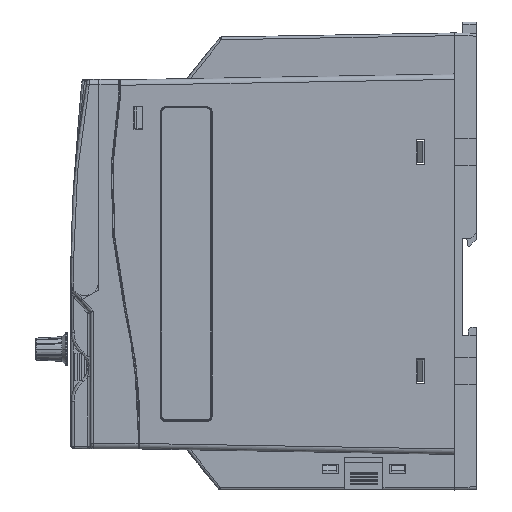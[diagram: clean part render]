
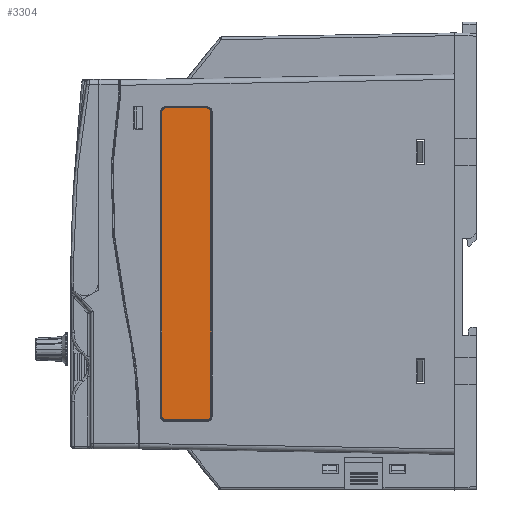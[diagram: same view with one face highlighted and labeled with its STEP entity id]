
A CAD part, left-side view. The second image highlights one B-rep face of the part: STEP entity #3304.
In plain terms, the highlighted planar face has unit normal (-1, 0, 0) as drawn and (0, -1, 0) by its records, which use the part's own axes.
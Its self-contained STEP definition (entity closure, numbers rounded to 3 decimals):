
#577 = CARTESIAN_POINT ( 'NONE',  ( -8.302, 0., -56.685 ) ) ;
#718 = PLANE ( 'NONE',  #41835 ) ;
#2706 = VERTEX_POINT ( 'NONE', #35400 ) ;
#3304 = ADVANCED_FACE ( 'NONE', ( #77372 ), #718, .F. ) ;
#3705 = VECTOR ( 'NONE', #20721, 1000. ) ;
#4880 = CARTESIAN_POINT ( 'NONE',  ( 7.522, 0., 57.005 ) ) ;
#5035 = EDGE_CURVE ( 'NONE', #72541, #2706, #96503, .T. ) ;
#5273 = VERTEX_POINT ( 'NONE', #54381 ) ;
#5946 = VERTEX_POINT ( 'NONE', #41494 ) ;
#7086 = CARTESIAN_POINT ( 'NONE',  ( -8.911, 0., 55.894 ) ) ;
#9246 = CARTESIAN_POINT ( 'NONE',  ( -8.882, 0., -55.963 ) ) ;
#9388 = DIRECTION ( 'NONE',  ( 1., 0., 0. ) ) ;
#13534 = CARTESIAN_POINT ( 'NONE',  ( 8.302, 0., 56.685 ) ) ;
#14207 = ORIENTED_EDGE ( 'NONE', *, *, #63325, .F. ) ;
#15381 = ORIENTED_EDGE ( 'NONE', *, *, #84685, .F. ) ;
#15709 = CARTESIAN_POINT ( 'NONE',  ( -8.362, 0., 56.639 ) ) ;
#16000 = CARTESIAN_POINT ( 'NONE',  ( 7.637, 0., 57.018 ) ) ;
#17018 = VECTOR ( 'NONE', #50558, 1000. ) ;
#17876 = CARTESIAN_POINT ( 'NONE',  ( -9.018, 0., -55.321 ) ) ;
#20721 = DIRECTION ( 'NONE',  ( -1., 0., 0. ) ) ;
#22166 = CARTESIAN_POINT ( 'NONE',  ( 8.882, 0., 55.963 ) ) ;
#23228 = VECTOR ( 'NONE', #62053, 1000. ) ;
#24380 = CARTESIAN_POINT ( 'NONE',  ( -7.572, 0., 56.998 ) ) ;
#26605 = LINE ( 'NONE', #63551, #3705 ) ;
#26708 = CARTESIAN_POINT ( 'NONE',  ( -7.225, 0., -57.018 ) ) ;
#29211 = EDGE_CURVE ( 'NONE', #81311, #92225, #88208, .T. ) ;
#30082 = CARTESIAN_POINT ( 'NONE',  ( 9.018, 0., -55.225 ) ) ;
#30456 = CARTESIAN_POINT ( 'NONE',  ( 8.911, 0., -55.894 ) ) ;
#30846 = CARTESIAN_POINT ( 'NONE',  ( 9.018, 0., 55.321 ) ) ;
#33025 = CARTESIAN_POINT ( 'NONE',  ( -7.225, 0., 57.018 ) ) ;
#34843 = CARTESIAN_POINT ( 'NONE',  ( -7.296, 0., -57.018 ) ) ;
#34978 = CARTESIAN_POINT ( 'NONE',  ( 0., 0., 0. ) ) ;
#35400 = CARTESIAN_POINT ( 'NONE',  ( -9.018, 0., -55.225 ) ) ;
#35780 = LINE ( 'NONE', #46300, #78715 ) ;
#36131 = CARTESIAN_POINT ( 'NONE',  ( -7.225, 0., 57.018 ) ) ;
#39123 = CARTESIAN_POINT ( 'NONE',  ( 8.362, 0., -56.639 ) ) ;
#40050 = CARTESIAN_POINT ( 'NONE',  ( 9.018, 0., -55.225 ) ) ;
#40331 = ORIENTED_EDGE ( 'NONE', *, *, #67816, .F. ) ;
#41324 = CARTESIAN_POINT ( 'NONE',  ( -9.018, 0., 55.225 ) ) ;
#41494 = CARTESIAN_POINT ( 'NONE',  ( -9.018, 0., 55.225 ) ) ;
#41835 = AXIS2_PLACEMENT_3D ( 'NONE', #34978, #60872, #9388 ) ;
#45535 = VERTEX_POINT ( 'NONE', #40050 ) ;
#46049 = LINE ( 'NONE', #53366, #23228 ) ;
#46300 = CARTESIAN_POINT ( 'NONE',  ( 9.018, 0., -55.637 ) ) ;
#47714 = CARTESIAN_POINT ( 'NONE',  ( 7.572, 0., -56.998 ) ) ;
#47722 = CARTESIAN_POINT ( 'NONE',  ( 7.225, 0., 57.018 ) ) ;
#47884 = EDGE_CURVE ( 'NONE', #45535, #5273, #97274, .T. ) ;
#48868 = CARTESIAN_POINT ( 'NONE',  ( 7.225, 0., 57.018 ) ) ;
#50558 = DIRECTION ( 'NONE',  ( 1., 0., 0. ) ) ;
#52082 = CARTESIAN_POINT ( 'NONE',  ( -7.894, 0., -56.911 ) ) ;
#52275 = EDGE_CURVE ( 'NONE', #5273, #72541, #26605, .T. ) ;
#53366 = CARTESIAN_POINT ( 'NONE',  ( -9.018, 0., 55.637 ) ) ;
#54381 = CARTESIAN_POINT ( 'NONE',  ( 7.225, 0., -57.018 ) ) ;
#55979 = CARTESIAN_POINT ( 'NONE',  ( 9.018, 0., -55.296 ) ) ;
#56356 = CARTESIAN_POINT ( 'NONE',  ( 7.225, 0., -57.018 ) ) ;
#58012 = ORIENTED_EDGE ( 'NONE', *, *, #29211, .F. ) ;
#58389 = ORIENTED_EDGE ( 'NONE', *, *, #47884, .F. ) ;
#58553 = CARTESIAN_POINT ( 'NONE',  ( -9.005, 0., 55.522 ) ) ;
#58926 = VERTEX_POINT ( 'NONE', #110351 ) ;
#60733 = CARTESIAN_POINT ( 'NONE',  ( -8.639, 0., -56.362 ) ) ;
#60872 = DIRECTION ( 'NONE',  ( 0., 1., 0. ) ) ;
#62053 = DIRECTION ( 'NONE',  ( 0., 0., 1. ) ) ;
#63325 = EDGE_CURVE ( 'NONE', #2706, #5946, #46049, .T. ) ;
#63551 = CARTESIAN_POINT ( 'NONE',  ( -7.637, 0., -57.018 ) ) ;
#65030 = CARTESIAN_POINT ( 'NONE',  ( 7.894, 0., 56.911 ) ) ;
#67216 = CARTESIAN_POINT ( 'NONE',  ( -8.685, 0., 56.302 ) ) ;
#67816 = EDGE_CURVE ( 'NONE', #5946, #81311, #72387, .T. ) ;
#69357 = CARTESIAN_POINT ( 'NONE',  ( -8.998, 0., -55.572 ) ) ;
#72387 =( BOUNDED_CURVE ( )  B_SPLINE_CURVE ( 3, ( #41324, #92702, #58553, #7086, #67216, #15709, #75838, #24380, #84404, #33025 ),
 .UNSPECIFIED., .F., .F. ) 
 B_SPLINE_CURVE_WITH_KNOTS ( ( 4, 1, 1, 1, 1, 1, 1, 4 ),
 ( 0., 0.076, 0.24, 0.405, 0.569, 0.733, 0.898, 1. ),
 .UNSPECIFIED. ) 
 CURVE ( )  GEOMETRIC_REPRESENTATION_ITEM ( )  RATIONAL_B_SPLINE_CURVE ( ( 1.151, 1.151, 1.151, 1.151, 1.151, 1.151, 1.151, 1.151, 1.151, 1.151 ) ) 
 REPRESENTATION_ITEM ( '' )  );
#72541 = VERTEX_POINT ( 'NONE', #26708 ) ;
#73630 = CARTESIAN_POINT ( 'NONE',  ( 8.639, 0., 56.362 ) ) ;
#75838 = CARTESIAN_POINT ( 'NONE',  ( -7.963, 0., 56.882 ) ) ;
#77372 = FACE_OUTER_BOUND ( 'NONE', #96973, .T. ) ;
#77988 = CARTESIAN_POINT ( 'NONE',  ( -9.018, 0., -55.225 ) ) ;
#78715 = VECTOR ( 'NONE', #98084, 1000. ) ;
#81311 = VERTEX_POINT ( 'NONE', #36131 ) ;
#81848 = CARTESIAN_POINT ( 'NONE',  ( 9.005, 0., -55.522 ) ) ;
#82233 = CARTESIAN_POINT ( 'NONE',  ( 8.998, 0., 55.572 ) ) ;
#82384 = EDGE_CURVE ( 'NONE', #58926, #45535, #35780, .T. ) ;
#84404 = CARTESIAN_POINT ( 'NONE',  ( -7.321, 0., 57.018 ) ) ;
#84685 = EDGE_CURVE ( 'NONE', #92225, #58926, #106038, .T. ) ;
#88208 = LINE ( 'NONE', #16000, #17018 ) ;
#90140 = ORIENTED_EDGE ( 'NONE', *, *, #52275, .F. ) ;
#90505 = CARTESIAN_POINT ( 'NONE',  ( 8.685, 0., -56.302 ) ) ;
#90892 = CARTESIAN_POINT ( 'NONE',  ( 9.018, 0., 55.225 ) ) ;
#91448 = ORIENTED_EDGE ( 'NONE', *, *, #82384, .F. ) ;
#92225 = VERTEX_POINT ( 'NONE', #48868 ) ;
#92702 = CARTESIAN_POINT ( 'NONE',  ( -9.018, 0., 55.296 ) ) ;
#94843 = CARTESIAN_POINT ( 'NONE',  ( -7.225, 0., -57.018 ) ) ;
#96503 =( BOUNDED_CURVE ( )  B_SPLINE_CURVE ( 3, ( #94843, #34843, #103507, #52082, #577, #60733, #9246, #69357, #17876, #77988 ),
 .UNSPECIFIED., .F., .F. ) 
 B_SPLINE_CURVE_WITH_KNOTS ( ( 4, 1, 1, 1, 1, 1, 1, 4 ),
 ( 0., 0.076, 0.24, 0.405, 0.569, 0.733, 0.898, 1. ),
 .UNSPECIFIED. ) 
 CURVE ( )  GEOMETRIC_REPRESENTATION_ITEM ( )  RATIONAL_B_SPLINE_CURVE ( ( 1.151, 1.151, 1.151, 1.151, 1.151, 1.151, 1.151, 1.151, 1.151, 1.151 ) ) 
 REPRESENTATION_ITEM ( '' )  );
#96973 = EDGE_LOOP ( 'NONE', ( #58389, #91448, #15381, #58012, #40331, #14207, #102392, #90140 ) ) ;
#97274 =( BOUNDED_CURVE ( )  B_SPLINE_CURVE ( 3, ( #30082, #55979, #81848, #30456, #90505, #39123, #99138, #47714, #107745, #56356 ),
 .UNSPECIFIED., .F., .F. ) 
 B_SPLINE_CURVE_WITH_KNOTS ( ( 4, 1, 1, 1, 1, 1, 1, 4 ),
 ( 0., 0.076, 0.24, 0.405, 0.569, 0.733, 0.898, 1. ),
 .UNSPECIFIED. ) 
 CURVE ( )  GEOMETRIC_REPRESENTATION_ITEM ( )  RATIONAL_B_SPLINE_CURVE ( ( 1.151, 1.151, 1.151, 1.151, 1.151, 1.151, 1.151, 1.151, 1.151, 1.151 ) ) 
 REPRESENTATION_ITEM ( '' )  );
#98084 = DIRECTION ( 'NONE',  ( 0., 0., -1. ) ) ;
#99138 = CARTESIAN_POINT ( 'NONE',  ( 7.963, 0., -56.882 ) ) ;
#99146 = CARTESIAN_POINT ( 'NONE',  ( 7.296, 0., 57.018 ) ) ;
#102392 = ORIENTED_EDGE ( 'NONE', *, *, #5035, .F. ) ;
#103507 = CARTESIAN_POINT ( 'NONE',  ( -7.522, 0., -57.005 ) ) ;
#106038 =( BOUNDED_CURVE ( )  B_SPLINE_CURVE ( 3, ( #47722, #99146, #4880, #65030, #13534, #73630, #22166, #82233, #30846, #90892 ),
 .UNSPECIFIED., .F., .F. ) 
 B_SPLINE_CURVE_WITH_KNOTS ( ( 4, 1, 1, 1, 1, 1, 1, 4 ),
 ( 0., 0.076, 0.24, 0.405, 0.569, 0.733, 0.898, 1. ),
 .UNSPECIFIED. ) 
 CURVE ( )  GEOMETRIC_REPRESENTATION_ITEM ( )  RATIONAL_B_SPLINE_CURVE ( ( 1.151, 1.151, 1.151, 1.151, 1.151, 1.151, 1.151, 1.151, 1.151, 1.151 ) ) 
 REPRESENTATION_ITEM ( '' )  );
#107745 = CARTESIAN_POINT ( 'NONE',  ( 7.321, 0., -57.018 ) ) ;
#110351 = CARTESIAN_POINT ( 'NONE',  ( 9.018, 0., 55.225 ) ) ;
